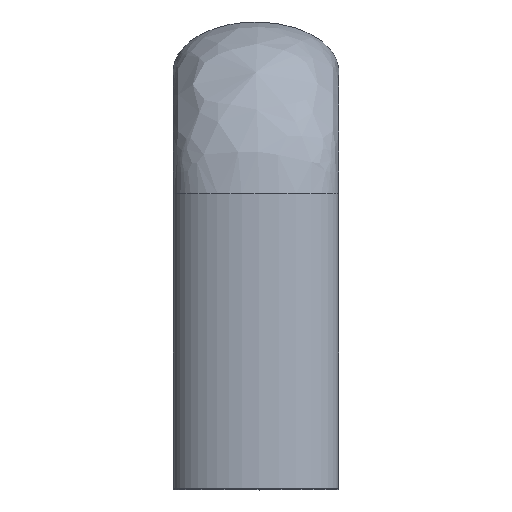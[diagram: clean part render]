
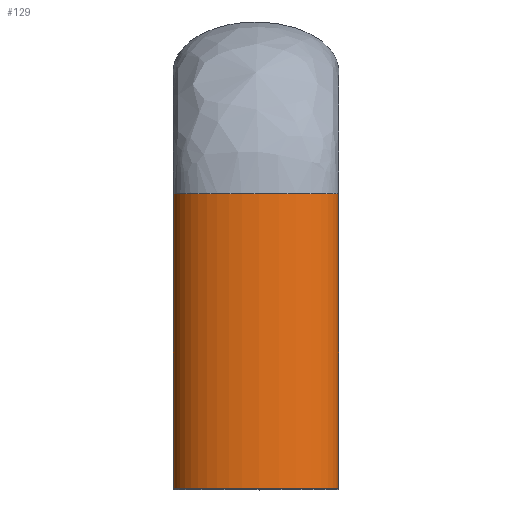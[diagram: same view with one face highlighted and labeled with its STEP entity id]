
A CAD part, top view. The second image highlights one B-rep face of the part: STEP entity #129.
In plain terms, the highlighted free-form (B-spline) face has degree [3, 1] with [7, 2] control points.
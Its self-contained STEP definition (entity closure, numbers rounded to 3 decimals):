
#6 = VERTEX_POINT ( 'NONE', #278 ) ;
#22 = CARTESIAN_POINT ( 'NONE',  ( 6.737, 0., 8. ) ) ;
#38 = CARTESIAN_POINT ( 'NONE',  ( 6.737, 24., 8. ) ) ;
#40 = CARTESIAN_POINT ( 'NONE',  ( -6.737, 0., 0. ) ) ;
#44 = CARTESIAN_POINT ( 'NONE',  ( -6.737, 0., 8. ) ) ;
#48 = EDGE_CURVE ( 'NONE', #6, #142, #222, .T. ) ;
#86 = CARTESIAN_POINT ( 'NONE',  ( -6.737, 24., 8. ) ) ;
#91 = CARTESIAN_POINT ( 'NONE',  ( -6.737, 24., 0. ) ) ;
#129 = ADVANCED_FACE ( 'NONE', ( #556 ), #454, .T. ) ;
#131 = ORIENTED_EDGE ( 'NONE', *, *, #207, .T. ) ;
#142 = VERTEX_POINT ( 'NONE', #265 ) ;
#152 = CARTESIAN_POINT ( 'NONE',  ( 6.737, 0., -8. ) ) ;
#202 = CARTESIAN_POINT ( 'NONE',  ( 6.737, 0., 0. ) ) ;
#207 = EDGE_CURVE ( 'NONE', #6, #585, #465, .T. ) ;
#222 = B_SPLINE_CURVE_WITH_KNOTS ( 'NONE', 1,
 ( #40, #91 ),
 .UNSPECIFIED., .F., .F.,
 ( 2, 2 ),
 ( 0., 1. ),
 .UNSPECIFIED. ) ;
#265 = CARTESIAN_POINT ( 'NONE',  ( -6.737, 24., 0. ) ) ;
#268 = VERTEX_POINT ( 'NONE', #483 ) ;
#273 = CARTESIAN_POINT ( 'NONE',  ( 6.737, 0., 0. ) ) ;
#275 = CARTESIAN_POINT ( 'NONE',  ( 6.737, 24., 0. ) ) ;
#278 = CARTESIAN_POINT ( 'NONE',  ( -6.737, 0., 0. ) ) ;
#280 =( BOUNDED_CURVE ( )  B_SPLINE_CURVE ( 3, ( #368, #443, #312, #302 ),
 .UNSPECIFIED., .F., .F. ) 
 B_SPLINE_CURVE_WITH_KNOTS ( ( 4, 4 ),
 ( 3.142, 6.283 ),
 .UNSPECIFIED. ) 
 CURVE ( )  GEOMETRIC_REPRESENTATION_ITEM ( )  RATIONAL_B_SPLINE_CURVE ( ( 1., 0.333, 0.333, 1. ) ) 
 REPRESENTATION_ITEM ( '' )  );
#293 = EDGE_CURVE ( 'NONE', #142, #268, #280, .T. ) ;
#302 = CARTESIAN_POINT ( 'NONE',  ( 6.737, 24., 0. ) ) ;
#306 = ORIENTED_EDGE ( 'NONE', *, *, #293, .F. ) ;
#312 = CARTESIAN_POINT ( 'NONE',  ( 6.737, 24., 8. ) ) ;
#328 = CARTESIAN_POINT ( 'NONE',  ( 6.737, 24., 0. ) ) ;
#368 = CARTESIAN_POINT ( 'NONE',  ( -6.737, 24., 0. ) ) ;
#412 = B_SPLINE_CURVE_WITH_KNOTS ( 'NONE', 1,
 ( #418, #530 ),
 .UNSPECIFIED., .F., .F.,
 ( 2, 2 ),
 ( 0., 1. ),
 .UNSPECIFIED. ) ;
#418 = CARTESIAN_POINT ( 'NONE',  ( 6.737, 0., 0. ) ) ;
#435 = EDGE_LOOP ( 'NONE', ( #513, #131, #568, #306 ) ) ;
#443 = CARTESIAN_POINT ( 'NONE',  ( -6.737, 24., 8. ) ) ;
#449 = CARTESIAN_POINT ( 'NONE',  ( 6.737, 0., 8. ) ) ;
#454 =( BOUNDED_SURFACE ( )  B_SPLINE_SURFACE ( 3, 1, ( 
 ( #273, #328 ),
 ( #152, #610 ),
 ( #564, #507 ),
 ( #723, #602 ),
 ( #44, #86 ),
 ( #449, #38 ),
 ( #606, #275 ) ),
 .UNSPECIFIED., .T., .F., .T. ) 
 B_SPLINE_SURFACE_WITH_KNOTS ( ( 4, 3, 4 ),
 ( 2, 2 ),
 ( 0., 0.5, 1. ),
 ( 0., 1. ),
 .UNSPECIFIED. ) 
 GEOMETRIC_REPRESENTATION_ITEM ( )  RATIONAL_B_SPLINE_SURFACE ( (
 ( 1., 1.),
 ( 0.333, 0.333),
 ( 0.333, 0.333),
 ( 1., 1.),
 ( 0.333, 0.333),
 ( 0.333, 0.333),
 ( 1., 1.) ) ) 
 REPRESENTATION_ITEM ( '' )  SURFACE ( )  );
#465 =( BOUNDED_CURVE ( )  B_SPLINE_CURVE ( 3, ( #487, #715, #22, #202 ),
 .UNSPECIFIED., .F., .T. ) 
 B_SPLINE_CURVE_WITH_KNOTS ( ( 4, 4 ),
 ( 3.142, 6.283 ),
 .UNSPECIFIED. ) 
 CURVE ( )  GEOMETRIC_REPRESENTATION_ITEM ( )  RATIONAL_B_SPLINE_CURVE ( ( 1., 0.333, 0.333, 1. ) ) 
 REPRESENTATION_ITEM ( '' )  );
#467 = CARTESIAN_POINT ( 'NONE',  ( 6.737, 0., 0. ) ) ;
#483 = CARTESIAN_POINT ( 'NONE',  ( 6.737, 24., 0. ) ) ;
#487 = CARTESIAN_POINT ( 'NONE',  ( -6.737, 0., 0. ) ) ;
#507 = CARTESIAN_POINT ( 'NONE',  ( -6.737, 24., -8. ) ) ;
#513 = ORIENTED_EDGE ( 'NONE', *, *, #48, .F. ) ;
#530 = CARTESIAN_POINT ( 'NONE',  ( 6.737, 24., 0. ) ) ;
#556 = FACE_OUTER_BOUND ( 'NONE', #435, .T. ) ;
#564 = CARTESIAN_POINT ( 'NONE',  ( -6.737, 0., -8. ) ) ;
#568 = ORIENTED_EDGE ( 'NONE', *, *, #615, .T. ) ;
#585 = VERTEX_POINT ( 'NONE', #467 ) ;
#602 = CARTESIAN_POINT ( 'NONE',  ( -6.737, 24., 0. ) ) ;
#606 = CARTESIAN_POINT ( 'NONE',  ( 6.737, 0., 0. ) ) ;
#610 = CARTESIAN_POINT ( 'NONE',  ( 6.737, 24., -8. ) ) ;
#615 = EDGE_CURVE ( 'NONE', #585, #268, #412, .T. ) ;
#715 = CARTESIAN_POINT ( 'NONE',  ( -6.737, 0., 8. ) ) ;
#723 = CARTESIAN_POINT ( 'NONE',  ( -6.737, 0., 0. ) ) ;
